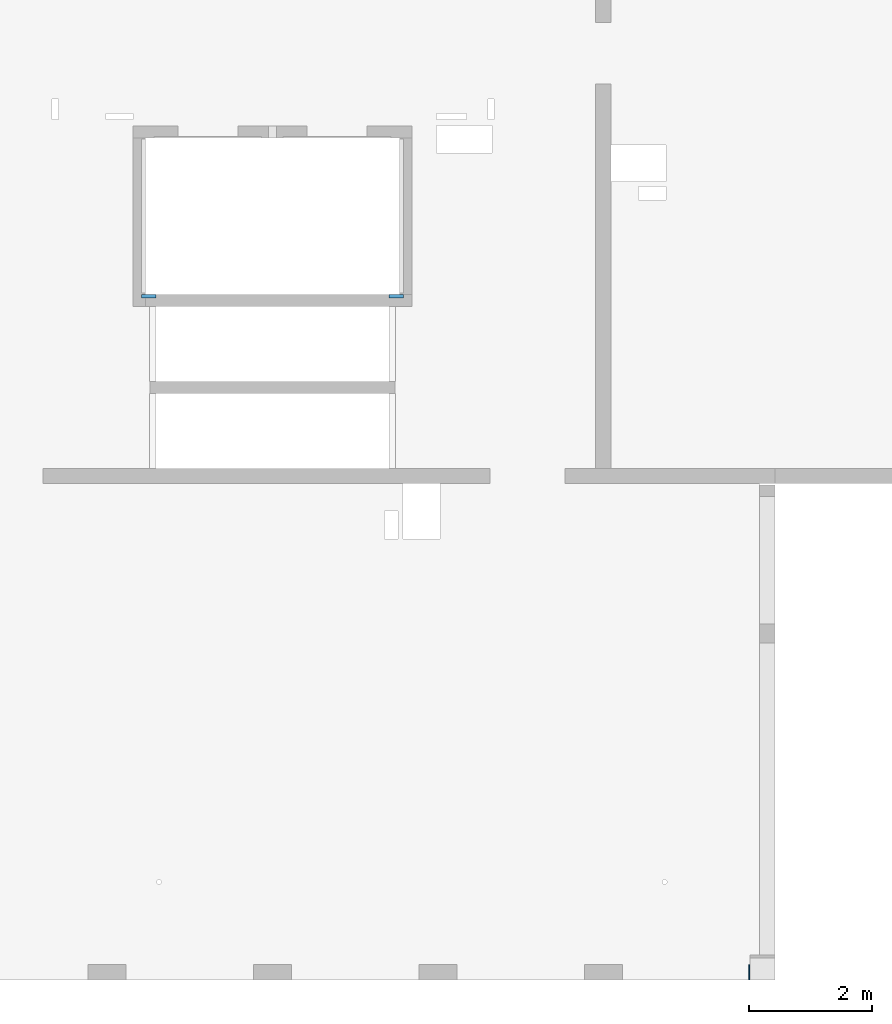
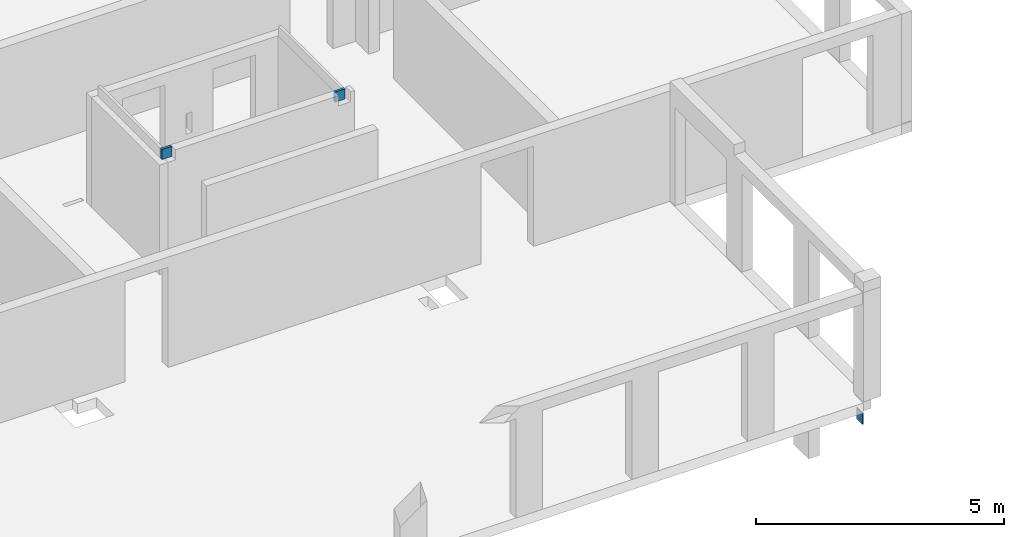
# One storey, part 6 of 9: 3 walls.
"""IFC2X3 building model written with IfcOpenShell, lengths in millimetres."""

from ifc_helpers import new_model, entity, si_unit, converted_unit, derived_unit, direction, frame, frame_2d, origin, place, context, subcontext, project, spatial, rectangle, extrude, material, layer, layer_set, layer_usage, type_object, element, save


model = new_model("IFC2X3")

# Units and contexts
model_context = context("Model", 3, precision=0.01, world=origin(), true_north=direction((6.12303176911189e-17, 1.0)))
body_context = subcontext(model_context, "Body", "Model", "MODEL_VIEW")
ifc_project = project(units=[si_unit("LENGTHUNIT", "METRE", prefix="MILLI"), si_unit("AREAUNIT", "SQUARE_METRE"), si_unit("VOLUMEUNIT", "CUBIC_METRE"), converted_unit("PLANEANGLEUNIT", "DEGREE", entity("IfcRatioMeasure", 0.0174532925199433), si_unit("PLANEANGLEUNIT", "RADIAN"), dimensions=[0, 0, 0, 0, 0, 0, 0]), si_unit("MASSUNIT", "GRAM", prefix="KILO"), derived_unit("MASSDENSITYUNIT", [(si_unit("MASSUNIT", "GRAM", prefix="KILO"), 1), (si_unit("LENGTHUNIT", "METRE"), -3)]), si_unit("TIMEUNIT", "SECOND"), si_unit("FREQUENCYUNIT", "HERTZ"), si_unit("THERMODYNAMICTEMPERATUREUNIT", "DEGREE_CELSIUS"), derived_unit("THERMALTRANSMITTANCEUNIT", [(si_unit("MASSUNIT", "GRAM", prefix="KILO"), 1), (si_unit("THERMODYNAMICTEMPERATUREUNIT", "KELVIN"), -1), (si_unit("TIMEUNIT", "SECOND"), -3)]), derived_unit("VOLUMETRICFLOWRATEUNIT", [(si_unit("LENGTHUNIT", "METRE"), 3), (si_unit("TIMEUNIT", "SECOND"), -1)]), si_unit("ELECTRICCURRENTUNIT", "AMPERE"), si_unit("ELECTRICVOLTAGEUNIT", "VOLT"), si_unit("POWERUNIT", "WATT"), si_unit("FORCEUNIT", "NEWTON", prefix="KILO"), si_unit("ILLUMINANCEUNIT", "LUX"), si_unit("LUMINOUSFLUXUNIT", "LUMEN"), si_unit("LUMINOUSINTENSITYUNIT", "CANDELA"), derived_unit("USERDEFINED", [(si_unit("MASSUNIT", "GRAM", prefix="KILO"), -1), (si_unit("LENGTHUNIT", "METRE"), -2), (si_unit("TIMEUNIT", "SECOND"), 3), (si_unit("LUMINOUSFLUXUNIT", "LUMEN"), 1)]), derived_unit("LINEARVELOCITYUNIT", [(si_unit("LENGTHUNIT", "METRE"), 1), (si_unit("TIMEUNIT", "SECOND"), -1)]), si_unit("PRESSUREUNIT", "PASCAL"), derived_unit("USERDEFINED", [(si_unit("LENGTHUNIT", "METRE"), -2), (si_unit("MASSUNIT", "GRAM", prefix="KILO"), 1), (si_unit("TIMEUNIT", "SECOND"), -2)])], contexts=[model_context])

# Site, building, storey
site_placement = place(None, origin())
site = spatial("IfcSite", under=ifc_project, at=site_placement, Name="Default", CompositionType="ELEMENT")
building_placement = place(site_placement, origin())
building = spatial("IfcBuilding", under=site, at=building_placement, Name="niet gebruiken", CompositionType="ELEMENT")
storey_placement = place(building_placement, frame((0.0, 0.0, 33390.0)))
storey = spatial("IfcBuildingStorey", under=building, at=storey_placement, Name="11 elfde verdieping", CompositionType="ELEMENT", Elevation=33390.0)

# Walls
ifc_material_1 = material(Name="NLRS_f2_beton ihwg")
ifc_layer_1 = layer(ifc_material_1, 250.0)
ifc_layer_set_1 = layer_set([ifc_layer_1], Name="Basic Wall:NLRS_21.21_WA_beton ihwg d=250_gen")
ifc_layer_usage_1 = layer_usage(ifc_layer_set_1, "AXIS2", "NEGATIVE", 125.0)
wall_type_1 = type_object("IfcWallType", Name="Basic Wall:NLRS_21.21_WA_beton ihwg d=250_gen", PredefinedType="STANDARD", material=ifc_layer_set_1)
wall_1_placement = place(storey_placement, frame((50970.0, 28881.0, -620.0)))
element("IfcWallStandardCase", 1, at=wall_1_placement, inside=storey, type_object=wall_type_1, material=ifc_layer_usage_1, Name="Basic Wall:NLRS_21.21_WA_beton ihwg d=250_gen", ObjectType="Basic Wall:NLRS_21.21_WA_beton ihwg d=250_gen", context=body_context, shape_type="SweptSolid", body=[
    extrude(rectangle(XDim=19.999999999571, YDim=250.000000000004, at=frame_2d((9.99999999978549, 1.63424829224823e-13), x_axis=(-1.0, 0.0))), origin(), (0.0, 0.0, 1.0), 280.000000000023),
])
ifc_material_2 = material(Name="NLRS_f2_beton prefab")
ifc_layer_2 = layer(ifc_material_2, 60.0)
ifc_layer_set_2 = layer_set([ifc_layer_2], Name="Basic Wall:NLRS_22.21_WA_beton prefab d=60_gen")
ifc_layer_usage_2 = layer_usage(ifc_layer_set_2, "AXIS2", "NEGATIVE", 30.0)
wall_type_2 = type_object("IfcWallType", Name="Basic Wall:NLRS_22.21_WA_beton prefab d=60_gen", PredefinedType="STANDARD", material=ifc_layer_set_2)
wall_2_placement = place(storey_placement, frame((41065.0, 39916.0, 2630.0)))
element("IfcWallStandardCase", 2, at=wall_2_placement, inside=storey, type_object=wall_type_2, material=ifc_layer_usage_2, Name="Basic Wall:NLRS_22.21_WA_beton prefab d=60_gen", ObjectType="Basic Wall:NLRS_22.21_WA_beton prefab d=60_gen", context=body_context, shape_type="SweptSolid", body=[
    extrude(rectangle(XDim=234.999967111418, YDim=60.0000000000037, at=frame_2d((117.499983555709, -4.12292422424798e-12), x_axis=(-1.0, 0.0))), origin(), (0.0, 0.0, 1.0), 250.000000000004),
])
ifc_layer_usage_3 = layer_usage(ifc_layer_set_2, "AXIS2", "POSITIVE", -30.0)
wall_3_placement = place(storey_placement, frame((45335.0, 39916.0, 2630.0), z_axis=(0.0, 0.0, 1.0), x_axis=(-1.0, 0.0, 0.0)))
element("IfcWallStandardCase", 3, at=wall_3_placement, inside=storey, type_object=wall_type_2, material=ifc_layer_usage_3, Name="Basic Wall:NLRS_22.21_WA_beton prefab d=60_gen", ObjectType="Basic Wall:NLRS_22.21_WA_beton prefab d=60_gen", context=body_context, shape_type="SweptSolid", body=[
    extrude(rectangle(XDim=234.999967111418, YDim=60.0000000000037, at=frame_2d((117.499983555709, 4.12114786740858e-12), x_axis=(-1.0, 0.0))), origin(), (0.0, 0.0, 1.0), 250.000000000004),
])

save(model, "model.ifc")
